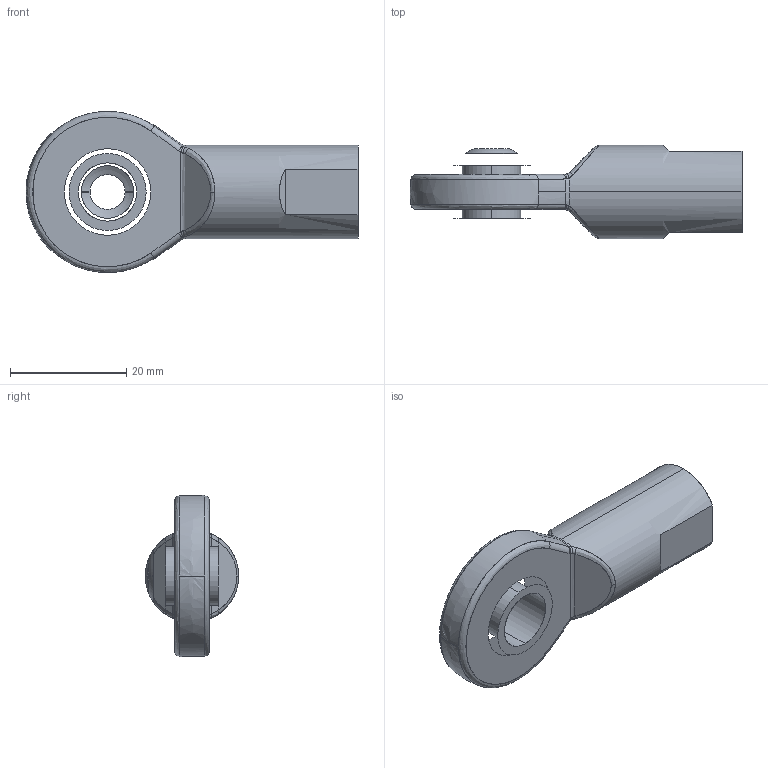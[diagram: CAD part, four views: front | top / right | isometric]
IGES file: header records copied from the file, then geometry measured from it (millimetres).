
Start section: SolidWorks IGES file using analytic representation for surfaces
Global section: file name: Z:\7-3D図面\01.図面\01.L\外形図\Ｇ／Ｓ\20170710(最新)\カタログ用\IGES\E10.IGS; native system: SolidWorks 2016; preprocessor: SolidWorks 2016; author: flgijutsu; date: 170713.114512; units: millimetre
Bounding box: 57 x 16 x 27.67 mm (x, y, z)
Surface area: 4088.1 mm2 (no closed solid volume)
Topology: 0 solids, 0 shells, 53 faces, 698 edges, 697 vertices
Faces by surface type: bspline 36, revolution 17
